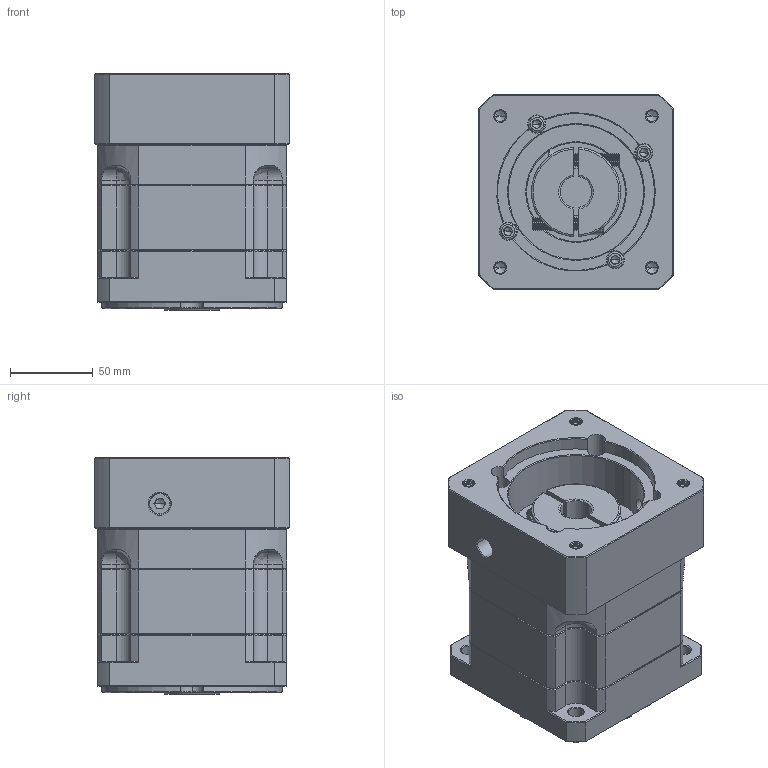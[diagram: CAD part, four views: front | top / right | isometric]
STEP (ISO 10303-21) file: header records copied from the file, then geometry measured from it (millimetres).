
FILE_DESCRIPTION (( 'STEP AP214' ), '1' );
FILE_NAME ('ZB115A-K25-L1-P2-19-95-130-M8.step', '2023-08-26T06:35:00', ( '' ), ( '' ), 'SwSTEP 2.0', 'SolidWorks 2016', '' );
FILE_SCHEMA (( 'AUTOMOTIVE_DESIGN' ));
Length unit declared in the file: millimetre
Products named in the file (1): ZB115A-K25-L1-P2-19-95-130-M8
Bounding box: 118 x 118 x 143.5 mm (x, y, z)
Volume: 1520520.9 mm3; surface area: 167439.3 mm2
Topology: 6 solids, 6 shells, 2347 faces, 6177 edges, 3926 vertices
Faces by surface type: plane 1137, bspline 414, cylinder 411, cone 365, torus 20
Entity records: 124205 total; most frequent: CARTESIAN_POINT 43801, ORIENTED_EDGE 12290, DIRECTION 9776, EDGE_CURVE 6145, LINE 3952, VECTOR 3952, VERTEX_POINT 3926, AXIS2_PLACEMENT_3D 2912
